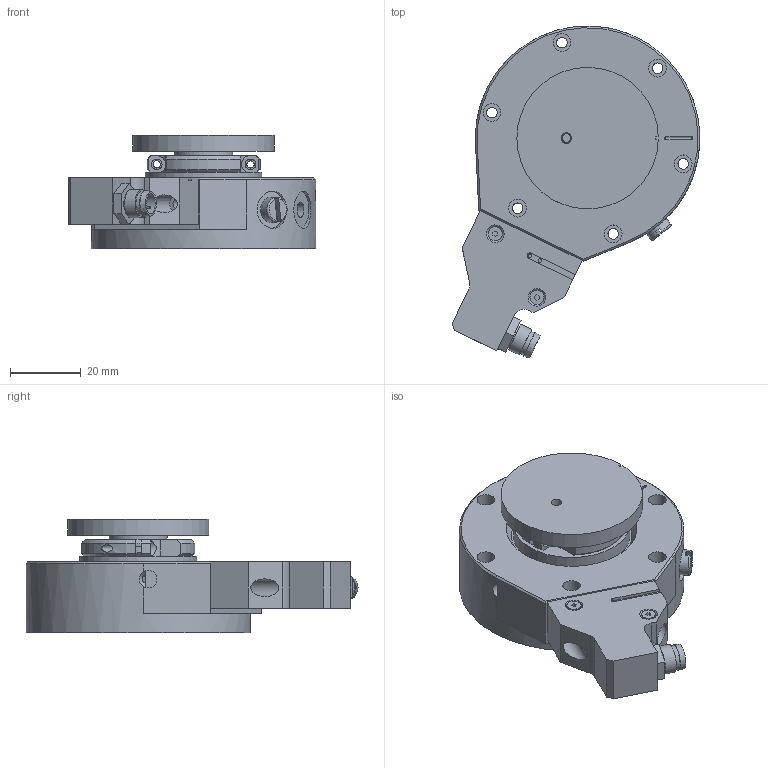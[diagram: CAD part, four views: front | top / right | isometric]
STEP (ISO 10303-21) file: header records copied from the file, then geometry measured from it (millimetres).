
FILE_DESCRIPTION( ( 'Unknown' ), '1' );
FILE_NAME( 'G:/Drawings/99-/EXPORT/x_t-stp-jpg/99-0083A.stp', 'Unknown', ( 'Unknown' ), ( 'Unknown' ), 'XStep 1.0', 'Unknown', ' ' );
FILE_SCHEMA( ( 'CONFIG_CONTROL_DESIGN' ) );
Length unit declared in the file: millimetre
Products named in the file (1): 92503-C1044
Bounding box: 70.06 x 93.89 x 32.02 mm (x, y, z)
Volume: 70404.1 mm3; surface area: 33883.8 mm2
Topology: 1 solids, 23 shells, 502 faces, 1180 edges, 782 vertices
Faces by surface type: plane 246, cylinder 185, cone 58, torus 8, sphere 5
Full cylindrical faces by diameter (mm): 0.6 x3, 1.02 x2, 1.6 x10, 1.9 x3, 2 x2, 2.05 x6, 2.06 x3, 2.25 x2, 2.495 x2, 2.5 x9, 2.54 x4, 2.995 x1, 3 x16, 3.032 x1, 3.25 x3, 3.3 x2, 3.5 x10, 3.967 x1, 4 x2, 4.2 x1, 4.5 x6, 5 x16, 5.16 x1, 5.7 x1, 6 x3, 6.992 x2, 7 x1, 7.137 x1, 7.97 x2, 8 x2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
Entity records: 13415 total; most frequent: CARTESIAN_POINT 2930, DIRECTION 2242, ORIENTED_EDGE 1750, AXIS2_PLACEMENT_3D 936, EDGE_CURVE 875, EDGE_LOOP 818, VERTEX_POINT 678, FACE_OUTER_BOUND 646
